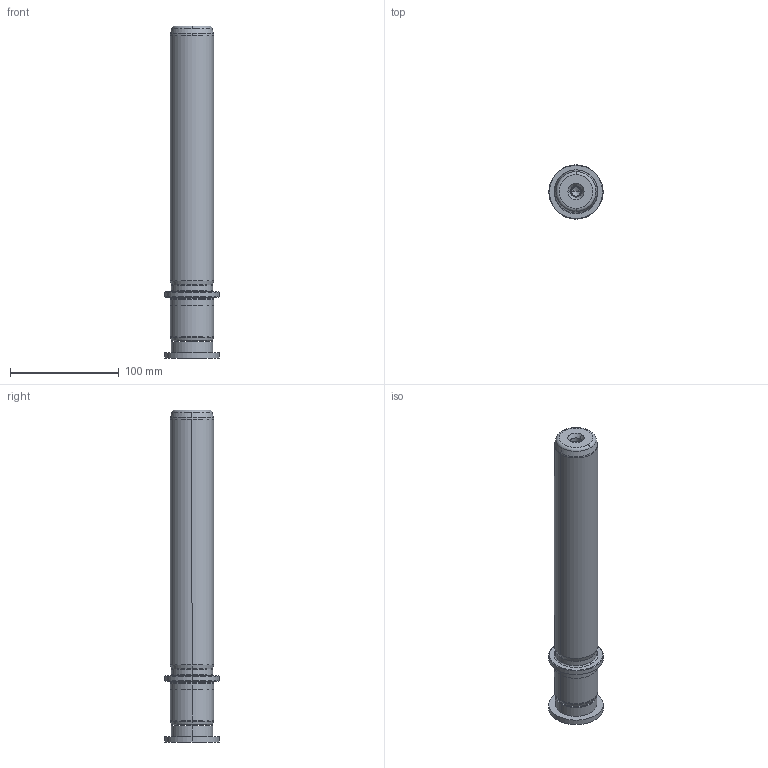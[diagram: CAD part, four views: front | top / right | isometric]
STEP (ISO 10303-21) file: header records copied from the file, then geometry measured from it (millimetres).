
FILE_DESCRIPTION((''),'2;1');
FILE_NAME('P22_040_250.stp','2009-02-16T10:21:32',(''),(''),'Mechanical Desktop 2009','Mechanical Desktop 2009',', , ');
FILE_SCHEMA(('CONFIG_CONTROL_DESIGN'));
Length unit declared in the file: millimetre
Products named in the file (2): Product; blmdl1
Assembly tree (1 placements, depth 2):
  Product
    blmdl1
Bounding box: 50 x 50 x 306 mm (x, y, z)
Volume: 383136.4 mm3; surface area: 49862.2 mm2
Topology: 3 solids, 3 shells, 99 faces, 237 edges, 149 vertices
Faces by surface type: cylinder 32, cone 28, plane 19, torus 10, bspline 10
Entity records: 3419 total; most frequent: CARTESIAN_POINT 923, DIRECTION 570, ORIENTED_EDGE 466, AXIS2_PLACEMENT_3D 246, EDGE_CURVE 233, CIRCLE 155, VERTEX_POINT 149, EDGE_LOOP 110
